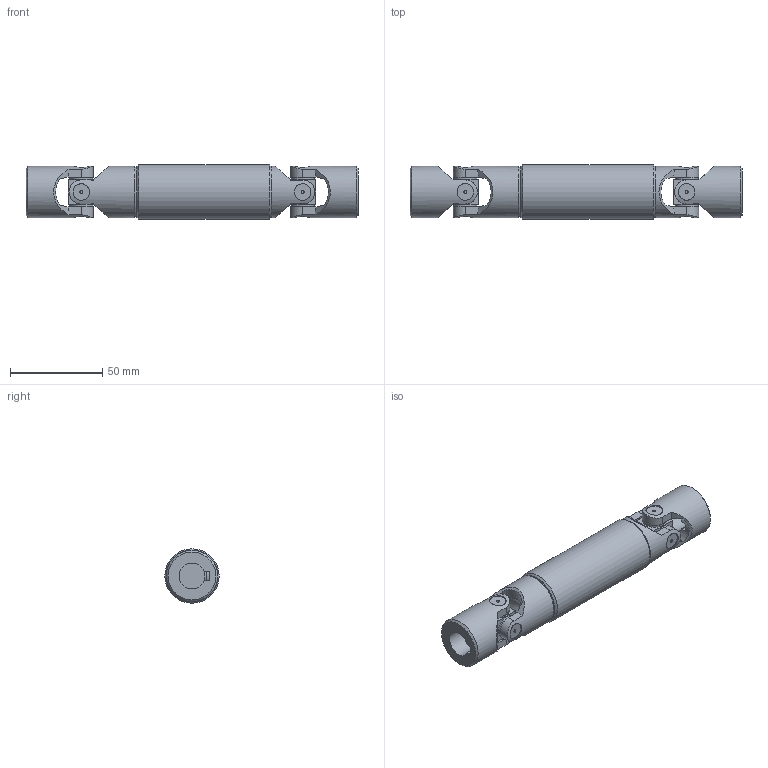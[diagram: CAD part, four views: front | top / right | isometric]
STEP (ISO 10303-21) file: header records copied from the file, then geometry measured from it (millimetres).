
FILE_DESCRIPTION(/* description */ ('EXTENSIBLE TRANSIMISSIONS Series G DIN 808 -2-'),/* implementation_level */ '2;1');
FILE_NAME(/* name */ '\\SRV2016\Societa\Stefano\Disegni 3D\00Catalogo 3D\03Trasmissioni standard GA\!05GA15\!05GA15_SG0A1415.stp',/* time_stamp */ '2022-01-31T15:35:43+01:00',/* author */ ('acquisti'),/* organization */ ('MARIOFERRI'),/* preprocessor_version */ 'ST-DEVELOPER v15.6',/* originating_system */ 'Autodesk Inventor 2015',/* authorisation */ '');
FILE_SCHEMA (('AUTOMOTIVE_DESIGN { 1 0 10303 214 3 1 1 }'));
Length unit declared in the file: millimetre
Products named in the file (5): 05G SFE; !05GA15 LAI; !05GA15 LCI; 05G MOC; !05GA15_SG0A1415
Assembly tree (6 placements, depth 2):
  !05GA15_SG0A1415
    05G SFE  x2
    !05GA15 LAI
    !05GA15 LCI
    05G MOC  x2
Bounding box: 180 x 29.5 x 29.5 mm (x, y, z)
Volume: 85781.3 mm3; surface area: 33725.6 mm2
Topology: 6 solids, 6 shells, 204 faces, 515 edges, 347 vertices
Faces by surface type: plane 106, cylinder 69, cone 25, torus 4
Full cylindrical faces by diameter (mm): 1.5 x8, 9 x8, 12.5 x8, 14 x1, 14.5 x2, 24 x1, 28 x4, 29.5 x1
Entity records: 5255 total; most frequent: CARTESIAN_POINT 1529, DIRECTION 751, ORIENTED_EDGE 724, EDGE_CURVE 362, AXIS2_PLACEMENT_3D 299, VERTEX_POINT 262, EDGE_LOOP 212, FACE_OUTER_BOUND 158
